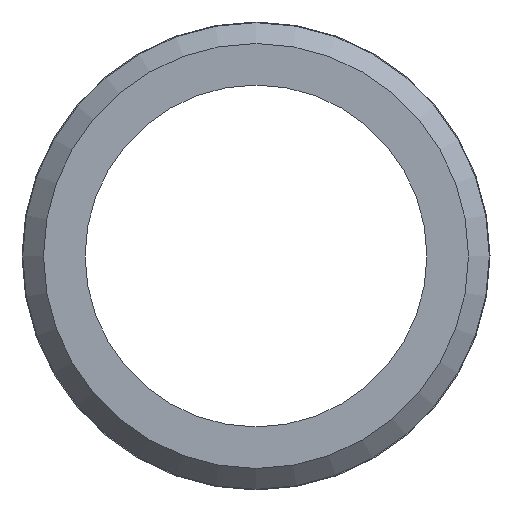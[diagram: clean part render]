
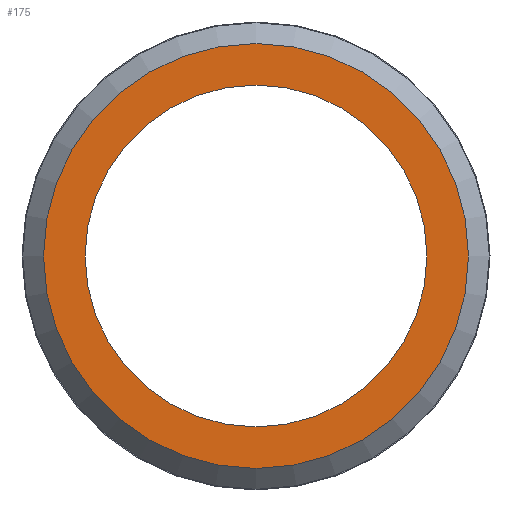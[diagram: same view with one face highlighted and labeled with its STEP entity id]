
A CAD part, front view. The second image highlights one B-rep face of the part: STEP entity #175.
In plain terms, the highlighted planar face has unit normal (0, -1, 0).
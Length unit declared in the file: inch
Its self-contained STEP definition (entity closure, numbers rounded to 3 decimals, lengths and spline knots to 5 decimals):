
#15=FACE_BOUND('',#40,.T.);
#19=PLANE('',#204);
#29=FACE_OUTER_BOUND('',#39,.T.);
#39=EDGE_LOOP('',(#134));
#40=EDGE_LOOP('',(#135,#136));
#63=CIRCLE('',#198,0.3065);
#68=CIRCLE('',#205,0.2465);
#69=CIRCLE('',#206,0.2465);
#81=VERTEX_POINT('',#291);
#86=VERTEX_POINT('',#305);
#87=VERTEX_POINT('',#306);
#99=EDGE_CURVE('',#81,#81,#63,.T.);
#106=EDGE_CURVE('',#86,#87,#68,.T.);
#107=EDGE_CURVE('',#87,#86,#69,.T.);
#134=ORIENTED_EDGE('',*,*,#99,.F.);
#135=ORIENTED_EDGE('',*,*,#106,.F.);
#136=ORIENTED_EDGE('',*,*,#107,.F.);
#175=ADVANCED_FACE('',(#29,#15),#19,.T.);
#198=AXIS2_PLACEMENT_3D('',#292,#229,#230);
#204=AXIS2_PLACEMENT_3D('',#304,#243,#244);
#205=AXIS2_PLACEMENT_3D('',#307,#245,#246);
#206=AXIS2_PLACEMENT_3D('',#308,#247,#248);
#229=DIRECTION('center_axis',(0.,1.,0.));
#230=DIRECTION('ref_axis',(0.,0.,1.));
#243=DIRECTION('center_axis',(0.,-1.,0.));
#244=DIRECTION('ref_axis',(0.,0.,-1.));
#245=DIRECTION('center_axis',(0.,-1.,0.));
#246=DIRECTION('ref_axis',(1.,0.,0.));
#247=DIRECTION('center_axis',(0.,-1.,0.));
#248=DIRECTION('ref_axis',(1.,0.,0.));
#291=CARTESIAN_POINT('',(0.,0.,-0.3065));
#292=CARTESIAN_POINT('Origin',(0.,0.,0.));
#304=CARTESIAN_POINT('Origin',(0.,0.,-0.2465));
#305=CARTESIAN_POINT('',(0.,0.,-0.2465));
#306=CARTESIAN_POINT('',(0.,0.,0.2465));
#307=CARTESIAN_POINT('Origin',(0.,0.,0.));
#308=CARTESIAN_POINT('Origin',(0.,0.,0.));
